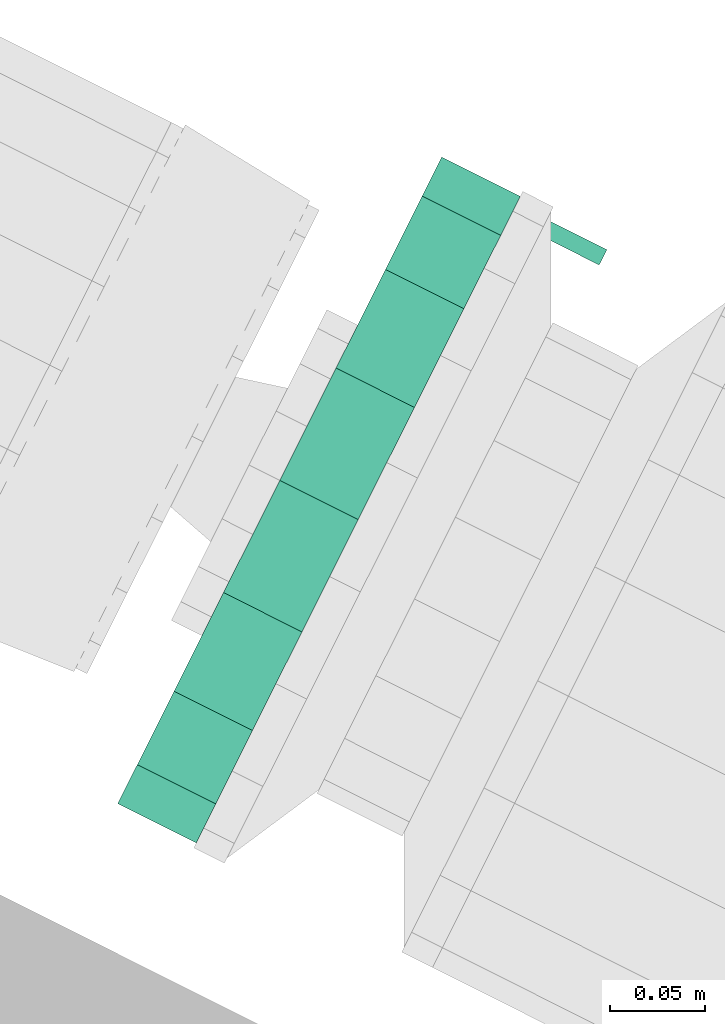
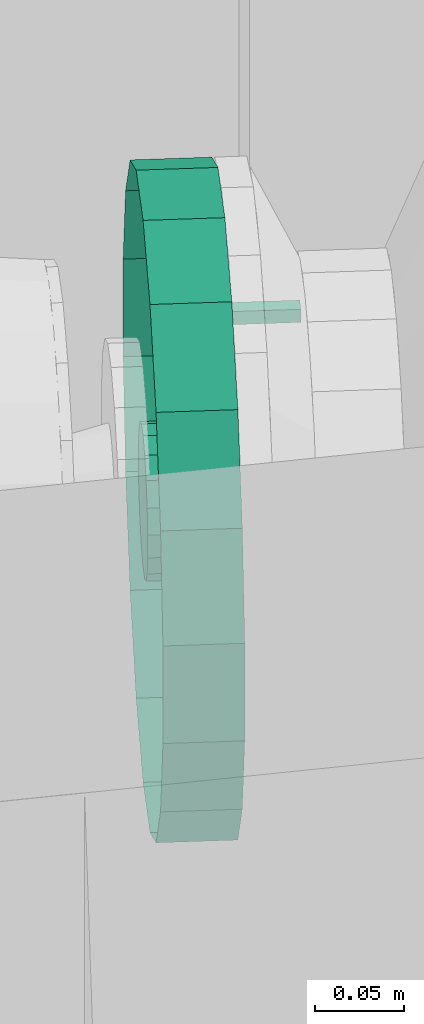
# One storey, part 154 of 206: 1 flow controller.
"""IFC2X3 building model written with IfcOpenShell, lengths in metres."""

import ifcopenshell
import ifcopenshell.guid

model = None  # the IFC model being written
_history = None  # IfcOwnerHistory: only IFC2X3 demands one
_inside = {}  # id of a spatial element -> (the spatial element, [elements in it])
_under = {}  # id of a project, library or spatial element -> (it, [spatial elements below it])
_declared = {}  # id of a project -> (the project, [libraries it declares])
_typed = {}  # id of a type object -> (the type object, [elements of that type])
_made_of = {}  # id of a material, layer set ... -> (it, [elements and type objects made of it])


def new_model(schema):
    """Start an empty IFC model of exactly this schema.

    Asked for "IFC4X3", IfcOpenShell would pick the latest addendum, in which some entities
    have other attributes; the version numbers below select the first issue.
    IFC2X3 requires an IfcOwnerHistory on every rooted entity: one is made here for all.
    """
    global model, _history
    if schema == "IFC4X3":
        model = ifcopenshell.file(schema_version=(4, 3, 0, 0))
    else:
        model = ifcopenshell.file(schema=schema)
    _inside.clear()
    _under.clear()
    _declared.clear()
    _typed.clear()
    _made_of.clear()
    _history = None
    if model.schema == "IFC2X3":
        org = make("IfcOrganization", Name="unknown")
        user = make(
            "IfcPersonAndOrganization",
            ThePerson=make("IfcPerson", FamilyName="unknown"),
            TheOrganization=org,
        )
        app = make(
            "IfcApplication",
            ApplicationDeveloper=org,
            Version="unknown",
            ApplicationFullName="unknown",
            ApplicationIdentifier="unknown",
        )
        _history = make(
            "IfcOwnerHistory",
            OwningUser=user,
            OwningApplication=app,
            ChangeAction="ADDED",
            CreationDate=0,
        )
    return model


def make(cls, **values):
    """One entity of the class cls with the attributes given. An attribute that is None is left unset."""
    return model.create_entity(
        cls, **{name: value for name, value in values.items() if value is not None}
    )


def rooted(cls, **values):
    """An entity with a GlobalId (a new one), such as an element, a storey or a relation."""
    return make(cls, GlobalId=ifcopenshell.guid.new(), OwnerHistory=_history, **values)


def si_unit(unit_type, name, prefix=None):
    """IfcSIUnit, for example si_unit("LENGTHUNIT", "METRE", prefix="MILLI")."""
    return make("IfcSIUnit", UnitType=unit_type, Prefix=prefix, Name=name)


def derived_unit(unit_type, elements):
    """IfcDerivedUnit: a product of units, each with its exponent."""
    return make(
        "IfcDerivedUnit",
        Elements=[
            make("IfcDerivedUnitElement", Unit=unit, Exponent=power)
            for unit, power in elements
        ],
        UnitType=unit_type,
    )


def assignment(units):
    """IfcUnitAssignment: the units of a project."""
    return None if units is None else make("IfcUnitAssignment", Units=units)


def point(xyz):
    """IfcCartesianPoint."""
    return None if xyz is None else make("IfcCartesianPoint", Coordinates=xyz)


def direction(xyz):
    """IfcDirection."""
    return None if xyz is None else make("IfcDirection", DirectionRatios=xyz)


def frame(location, z_axis=None, x_axis=None):
    """IfcAxis2Placement3D, a coordinate frame: its origin and axes. An axis left out is left unset."""
    return make(
        "IfcAxis2Placement3D",
        Location=point(location),
        Axis=direction(z_axis),
        RefDirection=direction(x_axis),
    )


def origin():
    """The frame at (0, 0, 0) with its axes left unset."""
    return frame((0.0, 0.0, 0.0))


def place(relative_to, where):
    """IfcLocalPlacement: puts the frame where relative to a parent placement (None: the world)."""
    return make(
        "IfcLocalPlacement", PlacementRelTo=relative_to, RelativePlacement=where
    )


def context(
    kind, dimensions, precision=None, world=None, true_north=None, identifier=None
):
    """IfcGeometricRepresentationContext, for example the 3D "Model" context."""
    return make(
        "IfcGeometricRepresentationContext",
        ContextIdentifier=identifier,
        ContextType=kind,
        CoordinateSpaceDimension=dimensions,
        Precision=precision,
        WorldCoordinateSystem=world,
        TrueNorth=true_north,
    )


def subcontext(parent, identifier, kind, view, scale=None):
    """IfcGeometricRepresentationSubContext, for example "Body" below "Model"."""
    return make(
        "IfcGeometricRepresentationSubContext",
        ContextIdentifier=identifier,
        ContextType=kind,
        ParentContext=parent,
        TargetScale=scale,
        TargetView=view,
    )


def project(units=None, contexts=None):
    """IfcProject with its units and contexts."""
    return rooted(
        "IfcProject",
        Name="project",
        RepresentationContexts=contexts,
        UnitsInContext=assignment(units),
    )


def spatial(cls, under=None, at=None, **own):
    """A site, building, storey or space (cls), placed at a placement, below another one or the project."""
    s = rooted(cls, ObjectPlacement=at, **own)
    if under is not None:
        _under.setdefault(under.id(), (under, []))[1].append(s)
    return s


def faces_of(points, faces, orient=None, outer=None):
    """IfcFace entities. A face is a list of loops; a loop is a list of indices into points, from 0.

    orient and outer hold one flag for each loop. By default every Orientation is true, the
    first loop of a face is its IfcFaceOuterBound and the others are IfcFaceBound.
    """
    made = []
    for i, loops in enumerate(faces):
        bounds = []
        for j, loop in enumerate(loops):
            is_outer = j == 0 if outer is None else outer[i][j]
            bounds.append(
                make(
                    "IfcFaceOuterBound" if is_outer else "IfcFaceBound",
                    Bound=make("IfcPolyLoop", Polygon=[points[k] for k in loop]),
                    Orientation=True if orient is None else orient[i][j],
                )
            )
        made.append(make("IfcFace", Bounds=bounds))
    return made


def face_set(faces, orient=None, outer=None):
    """The faces of one IfcConnectedFaceSet. surface_model builds it on its shared points."""
    return ("IfcConnectedFaceSet", faces, orient, outer)


def surface_model(cls, points, shells):
    """IfcFaceBasedSurfaceModel or IfcShellBasedSurfaceModel (cls): surfaces that need not close."""
    shared = [point(p) for p in points]
    made = [make(c, CfsFaces=faces_of(shared, fs, o, b)) for c, fs, o, b in shells]
    if cls == "IfcFaceBasedSurfaceModel":
        return make(cls, FbsmFaces=made)
    return make(cls, SbsmBoundary=made)


def shape(context_of_items, identifier, shape_type, items):
    """IfcShapeRepresentation: the items that make up one representation, for example the "Body"."""
    return make(
        "IfcShapeRepresentation",
        ContextOfItems=context_of_items,
        RepresentationIdentifier=identifier,
        RepresentationType=shape_type,
        Items=items,
    )


def source(mapping_origin, context_of_items, identifier, shape_type, items):
    """IfcRepresentationMap: a shape defined once, which mapped items show again and again."""
    return make(
        "IfcRepresentationMap",
        MappingOrigin=mapping_origin,
        MappedRepresentation=shape(context_of_items, identifier, shape_type, items),
    )


def transform(
    local_origin,
    x_axis=None,
    y_axis=None,
    z_axis=None,
    scale=None,
    scale2=None,
    scale3=None,
    uniform=True,
):
    """IfcCartesianTransformationOperator3D, or its non-uniform kind. x_axis, y_axis, z_axis: its Axis1, 2, 3."""
    if uniform:
        return make(
            "IfcCartesianTransformationOperator3D",
            Axis1=direction(x_axis),
            Axis2=direction(y_axis),
            LocalOrigin=point(local_origin),
            Scale=scale,
            Axis3=direction(z_axis),
        )
    return make(
        "IfcCartesianTransformationOperator3DnonUniform",
        Axis1=direction(x_axis),
        Axis2=direction(y_axis),
        LocalOrigin=point(local_origin),
        Scale=scale,
        Axis3=direction(z_axis),
        Scale2=scale2,
        Scale3=scale3,
    )


def mapped(mapping_source, mapping_target):
    """IfcMappedItem: shows the shape of a source again, moved by a transform."""
    return make(
        "IfcMappedItem", MappingSource=mapping_source, MappingTarget=mapping_target
    )


def material(Name=None, Category=None):
    """IfcMaterial."""
    return make("IfcMaterial", Name=Name, Category=Category)


def made_of(thing, what):
    """Note that an element or type object is made of a material, layer set ...; save() writes the relation."""
    if what is not None:
        _made_of.setdefault(what.id(), (what, []))[1].append(thing)
    return thing


def type_object(cls, material=None, **own):
    """A type object (cls), such as IfcWallType, which elements share."""
    return made_of(rooted(cls, **own), material)


def type_shapes(of_type, sources):
    """Give a type object the sources (RepresentationMaps) that its elements show as mapped items."""
    of_type.RepresentationMaps = sources


def element(
    cls,
    number,
    at=None,
    inside=None,
    cuts=None,
    type_object=None,
    material=None,
    context=None,
    identifier="Body",
    shape_type=None,
    held_by="IfcProductDefinitionShape",
    body=None,
    shapes=None,
    **own,
):
    """One element of the class cls, such as IfcWall. Its Tag is "e" and its number.

    at: its placement. inside: the storey or other place that contains it. cuts: it is an
    opening in that element (IfcRelVoidsElement). A single representation is given by context,
    identifier, shape_type and body (its items); several are given by shapes. held_by: the class
    of the entity that holds the representations. save() writes the other relations.
    """
    e = rooted(cls, Tag="e%d" % number, ObjectPlacement=at, **own)
    if body is not None:
        shapes = [shape(context, identifier, shape_type, body)]
    if shapes is not None:
        e.Representation = make(held_by, Representations=shapes)
    if inside is not None:
        _inside.setdefault(inside.id(), (inside, []))[1].append(e)
    if cuts is not None:
        rooted(
            "IfcRelVoidsElement", RelatingBuildingElement=cuts, RelatedOpeningElement=e
        )
    if type_object is not None:
        _typed.setdefault(type_object.id(), (type_object, []))[1].append(e)
    return made_of(e, material)


def aggregate(whole, parts):
    """IfcRelAggregates: a whole, such as a stair, and the parts it consists of."""
    return rooted("IfcRelAggregates", RelatingObject=whole, RelatedObjects=parts)


def save(model, path):
    """Write the relations noted so far, then the file.

    IfcRelAggregates (storeys below a building ...), IfcRelContainedInSpatialStructure (elements
    in a storey), IfcRelDefinesByType, IfcRelAssociatesMaterial and IfcRelDeclares: one each for
    every whole, place, type object, material and project.
    """
    for whole, parts in _under.values():
        aggregate(whole, parts)
    for where, things in _inside.values():
        rooted(
            "IfcRelContainedInSpatialStructure",
            RelatedElements=things,
            RelatingStructure=where,
        )
    for kind, things in _typed.values():
        rooted("IfcRelDefinesByType", RelatedObjects=things, RelatingType=kind)
    for what, things in _made_of.values():
        rooted("IfcRelAssociatesMaterial", RelatedObjects=things, RelatingMaterial=what)
    for by, libraries in _declared.values():
        rooted("IfcRelDeclares", RelatingContext=by, RelatedDefinitions=libraries)
    model.write(path)


model = new_model("IFC2X3")

# Units and contexts
model_context = context("Model", 3, precision=5.2338327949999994e-05, world=origin(), true_north=direction((0.0, 1.0)))
body_context = subcontext(model_context, "Body", "Model", "MODEL_VIEW")
ifc_project = project(units=[si_unit("LENGTHUNIT", "METRE"), si_unit("AREAUNIT", "SQUARE_METRE"), si_unit("VOLUMEUNIT", "CUBIC_METRE"), si_unit("MASSUNIT", "GRAM", prefix="KILO"), si_unit("PLANEANGLEUNIT", "RADIAN"), derived_unit("THERMALTRANSMITTANCEUNIT", [(si_unit("MASSUNIT", "GRAM", prefix="KILO"), 1), (si_unit("THERMODYNAMICTEMPERATUREUNIT", "KELVIN"), -1), (si_unit("TIMEUNIT", "SECOND"), -3)])], contexts=[model_context])

# Site, building, storey
site_placement = place(None, frame((0.0, 0.0, 0.0), z_axis=(0.0, 0.0, 1.0), x_axis=(0.8939966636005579, -0.4480736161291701, 0.0)))
site = spatial("IfcSite", under=ifc_project, at=site_placement, Name="Default", CompositionType="ELEMENT")
building_placement = place(site_placement, origin())
building = spatial("IfcBuilding", under=site, at=building_placement, CompositionType="ELEMENT")
storey_placement = place(building_placement, origin())
storey = spatial("IfcBuildingStorey", under=building, at=storey_placement, Name="Erdgeschoss", CompositionType="ELEMENT", Elevation=0.0)

# Flow controller
ifc_material = material(Name="IfcSurfaceStyle #1741")
distribution_element_type = type_object("IfcDistributionElementType", Name="Zwischenflanschklappe 336372:Zwischenflanschklappe 336372", material=ifc_material)
shared_shape = source(origin(), body_context, "Body", "SurfaceModel", [
    surface_model("IfcFaceBasedSurfaceModel", [(29.153227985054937, 10.579208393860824, 2.3094999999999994), (29.07262798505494, 10.579208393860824, 2.3094999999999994), (29.07262798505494, 10.579208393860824, 2.3185), (29.153227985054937, 10.579208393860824, 2.3185), (29.07262798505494, 10.588208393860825, 2.3185000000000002), (29.153227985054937, 10.588208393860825, 2.3185000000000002), (29.07262798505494, 10.588208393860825, 2.3094999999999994), (29.153227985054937, 10.588208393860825, 2.3094999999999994), (29.100127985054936, 10.403208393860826, 2.359), (29.100127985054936, 10.418599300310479, 2.356286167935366), (29.08479465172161, 10.418599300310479, 2.356286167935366), (29.08479465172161, 10.403208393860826, 2.359), (29.100127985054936, 10.43213383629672, 2.348471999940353), (29.08479465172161, 10.43213383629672, 2.348471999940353), (29.100127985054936, 10.442179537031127, 2.3365), (29.08479465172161, 10.442179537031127, 2.3365), (29.100127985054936, 10.447524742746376, 2.321814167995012), (29.08479465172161, 10.447524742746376, 2.321814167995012), (29.100127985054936, 10.447524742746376, 2.306185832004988), (29.08479465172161, 10.447524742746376, 2.306185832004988), (29.100127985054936, 10.442179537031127, 2.2915), (29.08479465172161, 10.442179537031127, 2.2915), (29.100127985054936, 10.43213383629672, 2.279528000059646), (29.08479465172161, 10.43213383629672, 2.279528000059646), (29.100127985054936, 10.418599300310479, 2.2717138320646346), (29.08479465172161, 10.418599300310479, 2.2717138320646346), (29.100127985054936, 10.403208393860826, 2.269), (29.08479465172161, 10.403208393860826, 2.269), (29.100127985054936, 10.387817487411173, 2.271713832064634), (29.08479465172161, 10.387817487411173, 2.271713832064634), (29.100127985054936, 10.374282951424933, 2.279528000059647), (29.08479465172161, 10.374282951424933, 2.279528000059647), (29.100127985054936, 10.364237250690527, 2.291500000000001), (29.08479465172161, 10.364237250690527, 2.291500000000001), (29.100127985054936, 10.358892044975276, 2.306185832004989), (29.08479465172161, 10.358892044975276, 2.306185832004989), (29.100127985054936, 10.358892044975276, 2.321814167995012), (29.08479465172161, 10.358892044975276, 2.321814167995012), (29.100127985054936, 10.364237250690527, 2.336499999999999), (29.08479465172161, 10.364237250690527, 2.336499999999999), (29.100127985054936, 10.374282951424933, 2.3484719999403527), (29.08479465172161, 10.374282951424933, 2.3484719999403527), (29.100127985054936, 10.387817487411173, 2.356286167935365), (29.08479465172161, 10.387817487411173, 2.356286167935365), (29.100127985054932, 10.403208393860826, 2.314), (29.0847946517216, 10.403208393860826, 2.314), (29.08479465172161, 10.403208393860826, 2.4065), (29.08479465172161, 10.434845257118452, 2.4009215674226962), (29.069461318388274, 10.434845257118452, 2.4009215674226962), (29.069461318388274, 10.403208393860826, 2.4065), (29.08479465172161, 10.462666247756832, 2.3848591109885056), (29.069461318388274, 10.462666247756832, 2.3848591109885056), (29.08479465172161, 10.483315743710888, 2.36025), (29.069461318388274, 10.483315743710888, 2.36025), (29.08479465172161, 10.494303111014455, 2.3300624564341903), (29.069461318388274, 10.494303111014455, 2.3300624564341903), (29.08479465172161, 10.494303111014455, 2.2979375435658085), (29.069461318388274, 10.494303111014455, 2.2979375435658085), (29.08479465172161, 10.483315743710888, 2.267750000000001), (29.069461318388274, 10.483315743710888, 2.267750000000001), (29.08479465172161, 10.462666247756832, 2.2431408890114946), (29.069461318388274, 10.462666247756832, 2.2431408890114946), (29.08479465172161, 10.434845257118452, 2.2270784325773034), (29.069461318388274, 10.434845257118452, 2.2270784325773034), (29.08479465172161, 10.403208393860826, 2.2215000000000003), (29.069461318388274, 10.403208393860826, 2.2215000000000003), (29.08479465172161, 10.3715715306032, 2.2270784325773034), (29.069461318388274, 10.3715715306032, 2.2270784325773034), (29.08479465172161, 10.343750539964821, 2.2431408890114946), (29.069461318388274, 10.343750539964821, 2.2431408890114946), (29.08479465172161, 10.323101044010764, 2.26775), (29.069461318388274, 10.323101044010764, 2.26775), (29.08479465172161, 10.312113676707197, 2.2979375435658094), (29.069461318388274, 10.312113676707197, 2.2979375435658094), (29.08479465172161, 10.312113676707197, 2.330062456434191), (29.069461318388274, 10.312113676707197, 2.330062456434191), (29.08479465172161, 10.323101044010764, 2.3602499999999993), (29.069461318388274, 10.323101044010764, 2.3602499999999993), (29.08479465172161, 10.343750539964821, 2.3848591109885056), (29.069461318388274, 10.343750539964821, 2.3848591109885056), (29.08479465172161, 10.3715715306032, 2.4009215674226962), (29.069461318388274, 10.3715715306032, 2.4009215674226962), (29.069461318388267, 10.403208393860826, 2.314), (29.069461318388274, 10.403208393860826, 2.359), (29.069461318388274, 10.418599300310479, 2.356286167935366), (29.05412798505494, 10.418599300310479, 2.356286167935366), (29.05412798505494, 10.403208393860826, 2.359), (29.069461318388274, 10.43213383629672, 2.348471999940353), (29.05412798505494, 10.43213383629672, 2.348471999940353), (29.069461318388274, 10.442179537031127, 2.3365), (29.05412798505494, 10.442179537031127, 2.3365), (29.069461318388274, 10.447524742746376, 2.321814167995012), (29.05412798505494, 10.447524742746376, 2.321814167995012), (29.069461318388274, 10.447524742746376, 2.306185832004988), (29.05412798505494, 10.447524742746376, 2.306185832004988), (29.069461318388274, 10.442179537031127, 2.2915), (29.05412798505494, 10.442179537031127, 2.2915), (29.069461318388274, 10.43213383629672, 2.279528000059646), (29.05412798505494, 10.43213383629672, 2.279528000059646), (29.069461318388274, 10.418599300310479, 2.2717138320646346), (29.05412798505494, 10.418599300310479, 2.2717138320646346), (29.069461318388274, 10.403208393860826, 2.269), (29.05412798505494, 10.403208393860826, 2.269), (29.069461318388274, 10.387817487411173, 2.271713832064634), (29.05412798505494, 10.387817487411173, 2.271713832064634), (29.069461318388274, 10.374282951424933, 2.279528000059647), (29.05412798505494, 10.374282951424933, 2.279528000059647), (29.069461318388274, 10.364237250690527, 2.291500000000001), (29.05412798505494, 10.364237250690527, 2.291500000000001), (29.069461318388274, 10.358892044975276, 2.306185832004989), (29.05412798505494, 10.358892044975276, 2.306185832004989), (29.069461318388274, 10.358892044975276, 2.321814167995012), (29.05412798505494, 10.358892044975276, 2.321814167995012), (29.069461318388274, 10.364237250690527, 2.336499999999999), (29.05412798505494, 10.364237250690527, 2.336499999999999), (29.069461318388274, 10.374282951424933, 2.3484719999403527), (29.05412798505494, 10.374282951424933, 2.3484719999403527), (29.069461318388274, 10.387817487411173, 2.356286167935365), (29.05412798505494, 10.387817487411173, 2.356286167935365), (29.05412798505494, 10.403208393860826, 2.314), (29.077127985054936, 10.403208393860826, 2.3216666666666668), (29.079750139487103, 10.403208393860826, 2.3212043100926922), (29.079750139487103, 10.537458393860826, 2.3212043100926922), (29.077127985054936, 10.537458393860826, 2.3216666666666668), (29.082056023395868, 10.403208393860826, 2.3198730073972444), (29.082056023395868, 10.537458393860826, 2.3198730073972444), (29.083767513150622, 10.403208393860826, 2.3178333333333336), (29.083767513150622, 10.537458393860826, 2.3178333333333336), (29.084678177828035, 10.403208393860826, 2.3153313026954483), (29.084678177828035, 10.537458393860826, 2.3153313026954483), (29.084678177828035, 10.403208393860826, 2.3126686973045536), (29.084678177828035, 10.537458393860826, 2.3126686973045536), (29.083767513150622, 10.403208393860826, 2.3101666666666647), (29.083767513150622, 10.537458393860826, 2.3101666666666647), (29.082056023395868, 10.403208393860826, 2.3081269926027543), (29.082056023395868, 10.537458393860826, 2.3081269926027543), (29.079750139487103, 10.403208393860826, 2.3067956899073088), (29.079750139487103, 10.537458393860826, 2.3067956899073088), (29.077127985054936, 10.403208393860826, 2.3063333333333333), (29.077127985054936, 10.537458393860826, 2.3063333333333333), (29.074505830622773, 10.403208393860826, 2.3067956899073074), (29.074505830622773, 10.537458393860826, 2.3067956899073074), (29.072199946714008, 10.403208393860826, 2.3081269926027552), (29.072199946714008, 10.537458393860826, 2.3081269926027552), (29.070488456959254, 10.403208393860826, 2.3101666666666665), (29.070488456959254, 10.537458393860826, 2.3101666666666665), (29.06957779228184, 10.403208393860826, 2.312668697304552), (29.06957779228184, 10.537458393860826, 2.312668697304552), (29.06957779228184, 10.403208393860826, 2.3153313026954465), (29.06957779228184, 10.537458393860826, 2.3153313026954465), (29.070488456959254, 10.403208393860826, 2.3178333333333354), (29.070488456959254, 10.537458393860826, 2.3178333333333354), (29.072199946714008, 10.403208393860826, 2.319873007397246), (29.072199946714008, 10.537458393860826, 2.319873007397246), (29.074505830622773, 10.403208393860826, 2.321204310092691), (29.074505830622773, 10.537458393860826, 2.321204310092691), (29.077127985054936, 10.403208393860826, 2.314), (29.077127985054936, 10.537458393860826, 2.314), (29.077127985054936, 10.537458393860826, 2.317805), (29.079818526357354, 10.537458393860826, 2.316690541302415), (29.079818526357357, 10.579208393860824, 2.316690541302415), (29.077127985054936, 10.579208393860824, 2.3178050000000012), (29.08093298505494, 10.537458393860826, 2.314), (29.08093298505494, 10.579208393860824, 2.314), (29.079818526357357, 10.537458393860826, 2.311309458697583), (29.079818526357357, 10.579208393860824, 2.311309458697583), (29.077127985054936, 10.537458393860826, 2.3101949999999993), (29.077127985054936, 10.579208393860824, 2.3101949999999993), (29.074437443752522, 10.537458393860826, 2.3113094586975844), (29.074437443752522, 10.579208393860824, 2.3113094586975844), (29.07332298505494, 10.537458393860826, 2.3139999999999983), (29.07332298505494, 10.579208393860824, 2.3139999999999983), (29.074437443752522, 10.537458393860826, 2.3166905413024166), (29.074437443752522, 10.579208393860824, 2.316690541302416), (29.077127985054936, 10.579208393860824, 2.314), (29.100127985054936, 10.403208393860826, 2.5065000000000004), (29.100127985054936, 10.469047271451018, 2.494890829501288), (29.05412798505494, 10.469047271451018, 2.494890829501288), (29.05412798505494, 10.403208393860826, 2.5065000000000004), (29.100127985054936, 10.526945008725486, 2.461463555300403), (29.05412798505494, 10.526945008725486, 2.461463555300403), (29.100127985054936, 10.569918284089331, 2.4102499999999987), (29.05412798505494, 10.569918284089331, 2.4102499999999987), (29.100127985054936, 10.592783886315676, 2.347427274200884), (29.05412798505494, 10.592783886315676, 2.347427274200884), (29.100127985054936, 10.592783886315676, 2.2805727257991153), (29.05412798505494, 10.592783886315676, 2.2805727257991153), (29.100127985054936, 10.569918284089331, 2.21775), (29.05412798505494, 10.569918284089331, 2.21775), (29.100127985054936, 10.526945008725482, 2.166536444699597), (29.05412798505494, 10.526945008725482, 2.166536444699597), (29.100127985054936, 10.469047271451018, 2.133109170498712), (29.05412798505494, 10.469047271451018, 2.133109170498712), (29.100127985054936, 10.403208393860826, 2.1214999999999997), (29.05412798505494, 10.403208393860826, 2.1214999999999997), (29.100127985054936, 10.337369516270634, 2.1331091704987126), (29.05412798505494, 10.337369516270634, 2.1331091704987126), (29.100127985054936, 10.279471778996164, 2.1665364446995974), (29.05412798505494, 10.279471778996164, 2.1665364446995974), (29.100127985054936, 10.23649850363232, 2.21775), (29.05412798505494, 10.23649850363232, 2.21775), (29.100127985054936, 10.213632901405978, 2.2805727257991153), (29.05412798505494, 10.213632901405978, 2.2805727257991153), (29.100127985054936, 10.213632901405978, 2.3474272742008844), (29.05412798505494, 10.213632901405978, 2.3474272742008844), (29.100127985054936, 10.23649850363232, 2.4102500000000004), (29.05412798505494, 10.23649850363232, 2.4102500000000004), (29.100127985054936, 10.279471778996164, 2.461463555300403), (29.05412798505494, 10.279471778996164, 2.461463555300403), (29.100127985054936, 10.337369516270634, 2.494890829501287), (29.05412798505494, 10.337369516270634, 2.494890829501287)], [face_set([[[0, 1, 2, 3]], [[3, 2, 4, 5]], [[5, 4, 6, 7]], [[7, 6, 1, 0]], [[0, 3, 5, 7]], [[6, 4, 2, 1]], [[8, 9, 10, 11]], [[9, 12, 13, 10]], [[12, 14, 15, 13]], [[14, 16, 17, 15]], [[16, 18, 19, 17]], [[18, 20, 21, 19]], [[20, 22, 23, 21]], [[22, 24, 25, 23]], [[24, 26, 27, 25]], [[26, 28, 29, 27]], [[28, 30, 31, 29]], [[30, 32, 33, 31]], [[32, 34, 35, 33]], [[34, 36, 37, 35]], [[36, 38, 39, 37]], [[38, 40, 41, 39]], [[40, 42, 43, 41]], [[42, 8, 11, 43]], [[44, 9, 8]], [[44, 12, 9]], [[44, 14, 12]], [[44, 16, 14]], [[44, 18, 16]], [[44, 20, 18]], [[44, 22, 20]], [[44, 24, 22]], [[44, 26, 24]], [[44, 28, 26]], [[44, 30, 28]], [[44, 32, 30]], [[44, 34, 32]], [[44, 36, 34]], [[44, 38, 36]], [[44, 40, 38]], [[44, 42, 40]], [[44, 8, 42]], [[45, 43, 11]], [[45, 41, 43]], [[45, 39, 41]], [[45, 37, 39]], [[45, 35, 37]], [[45, 33, 35]], [[45, 31, 33]], [[45, 29, 31]], [[45, 27, 29]], [[45, 25, 27]], [[45, 23, 25]], [[45, 21, 23]], [[45, 19, 21]], [[45, 17, 19]], [[45, 15, 17]], [[45, 13, 15]], [[45, 10, 13]], [[45, 11, 10]], [[46, 47, 48, 49]], [[47, 50, 51, 48]], [[50, 52, 53, 51]], [[52, 54, 55, 53]], [[54, 56, 57, 55]], [[56, 58, 59, 57]], [[58, 60, 61, 59]], [[60, 62, 63, 61]], [[62, 64, 65, 63]], [[64, 66, 67, 65]], [[66, 68, 69, 67]], [[68, 70, 71, 69]], [[70, 72, 73, 71]], [[72, 74, 75, 73]], [[74, 76, 77, 75]], [[76, 78, 79, 77]], [[78, 80, 81, 79]], [[80, 46, 49, 81]], [[45, 47, 46]], [[45, 50, 47]], [[45, 52, 50]], [[45, 54, 52]], [[45, 56, 54]], [[45, 58, 56]], [[45, 60, 58]], [[45, 62, 60]], [[45, 64, 62]], [[45, 66, 64]], [[45, 68, 66]], [[45, 70, 68]], [[45, 72, 70]], [[45, 74, 72]], [[45, 76, 74]], [[45, 78, 76]], [[45, 80, 78]], [[45, 46, 80]], [[82, 81, 49]], [[82, 79, 81]], [[82, 77, 79]], [[82, 75, 77]], [[82, 73, 75]], [[82, 71, 73]], [[82, 69, 71]], [[82, 67, 69]], [[82, 65, 67]], [[82, 63, 65]], [[82, 61, 63]], [[82, 59, 61]], [[82, 57, 59]], [[82, 55, 57]], [[82, 53, 55]], [[82, 51, 53]], [[82, 48, 51]], [[82, 49, 48]], [[83, 84, 85, 86]], [[84, 87, 88, 85]], [[87, 89, 90, 88]], [[89, 91, 92, 90]], [[91, 93, 94, 92]], [[93, 95, 96, 94]], [[95, 97, 98, 96]], [[97, 99, 100, 98]], [[99, 101, 102, 100]], [[101, 103, 104, 102]], [[103, 105, 106, 104]], [[105, 107, 108, 106]], [[107, 109, 110, 108]], [[109, 111, 112, 110]], [[111, 113, 114, 112]], [[113, 115, 116, 114]], [[115, 117, 118, 116]], [[117, 83, 86, 118]], [[82, 84, 83]], [[82, 87, 84]], [[82, 89, 87]], [[82, 91, 89]], [[82, 93, 91]], [[82, 95, 93]], [[82, 97, 95]], [[82, 99, 97]], [[82, 101, 99]], [[82, 103, 101]], [[82, 105, 103]], [[82, 107, 105]], [[82, 109, 107]], [[82, 111, 109]], [[82, 113, 111]], [[82, 115, 113]], [[82, 117, 115]], [[82, 83, 117]], [[119, 118, 86]], [[119, 116, 118]], [[119, 114, 116]], [[119, 112, 114]], [[119, 110, 112]], [[119, 108, 110]], [[119, 106, 108]], [[119, 104, 106]], [[119, 102, 104]], [[119, 100, 102]], [[119, 98, 100]], [[119, 96, 98]], [[119, 94, 96]], [[119, 92, 94]], [[119, 90, 92]], [[119, 88, 90]], [[119, 85, 88]], [[119, 86, 85]], [[120, 121, 122, 123]], [[121, 124, 125, 122]], [[124, 126, 127, 125]], [[126, 128, 129, 127]], [[128, 130, 131, 129]], [[130, 132, 133, 131]], [[132, 134, 135, 133]], [[134, 136, 137, 135]], [[136, 138, 139, 137]], [[138, 140, 141, 139]], [[140, 142, 143, 141]], [[142, 144, 145, 143]], [[144, 146, 147, 145]], [[146, 148, 149, 147]], [[148, 150, 151, 149]], [[150, 152, 153, 151]], [[152, 154, 155, 153]], [[154, 120, 123, 155]], [[156, 121, 120]], [[156, 124, 121]], [[156, 126, 124]], [[156, 128, 126]], [[156, 130, 128]], [[156, 132, 130]], [[156, 134, 132]], [[156, 136, 134]], [[156, 138, 136]], [[156, 140, 138]], [[156, 142, 140]], [[156, 144, 142]], [[156, 146, 144]], [[156, 148, 146]], [[156, 150, 148]], [[156, 152, 150]], [[156, 154, 152]], [[156, 120, 154]], [[157, 155, 123]], [[157, 153, 155]], [[157, 151, 153]], [[157, 149, 151]], [[157, 147, 149]], [[157, 145, 147]], [[157, 143, 145]], [[157, 141, 143]], [[157, 139, 141]], [[157, 137, 139]], [[157, 135, 137]], [[157, 133, 135]], [[157, 131, 133]], [[157, 129, 131]], [[157, 127, 129]], [[157, 125, 127]], [[157, 122, 125]], [[157, 123, 122]], [[158, 159, 160, 161]], [[159, 162, 163, 160]], [[162, 164, 165, 163]], [[164, 166, 167, 165]], [[166, 168, 169, 167]], [[168, 170, 171, 169]], [[170, 172, 173, 171]], [[172, 158, 161, 173]], [[174, 173, 161]], [[174, 171, 173]], [[174, 169, 171]], [[174, 167, 169]], [[174, 165, 167]], [[174, 163, 165]], [[174, 160, 163]], [[174, 161, 160]], [[175, 176, 177, 178]], [[176, 179, 180, 177]], [[179, 181, 182, 180]], [[181, 183, 184, 182]], [[183, 185, 186, 184]], [[185, 187, 188, 186]], [[187, 189, 190, 188]], [[189, 191, 192, 190]], [[191, 193, 194, 192]], [[193, 195, 196, 194]], [[195, 197, 198, 196]], [[197, 199, 200, 198]], [[199, 201, 202, 200]], [[201, 203, 204, 202]], [[203, 205, 206, 204]], [[205, 207, 208, 206]], [[207, 209, 210, 208]], [[209, 175, 178, 210]]])]),
])
type_shapes(distribution_element_type, [shared_shape])
flow_controller_placement = place(storey_placement, origin())
element("IfcFlowController", 1, at=flow_controller_placement, inside=storey, type_object=distribution_element_type, material=ifc_material, Name="Zwischenflanschklappe", ObjectType="Zwischenflanschklappe", context=body_context, shape_type="MappedRepresentation", body=[
    mapped(shared_shape, transform((0.0, 0.0, 0.0), scale=1.0)),
])

save(model, "model.ifc")
